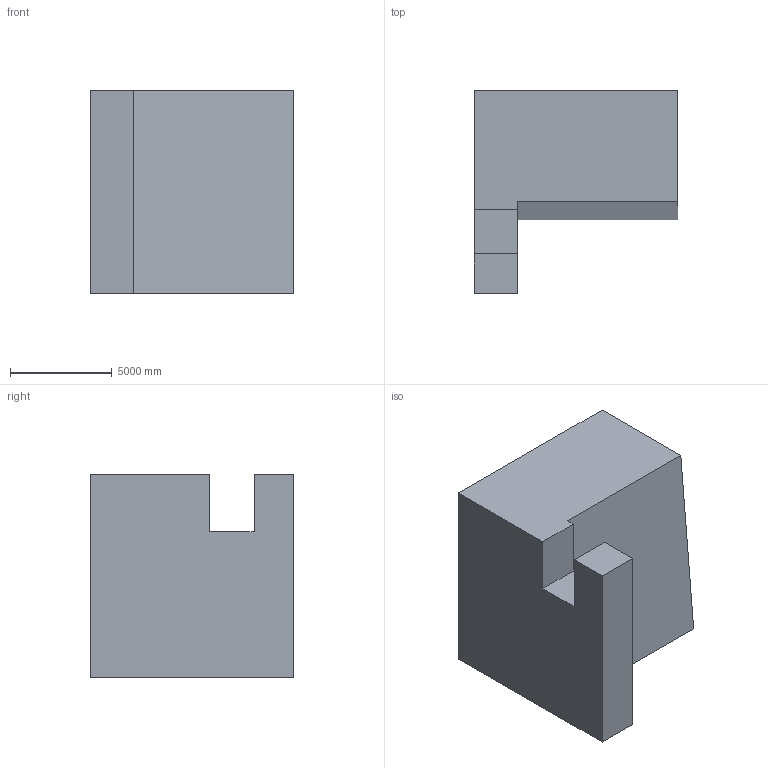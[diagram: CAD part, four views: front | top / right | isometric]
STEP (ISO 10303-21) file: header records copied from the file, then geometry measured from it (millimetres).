
FILE_DESCRIPTION (( 'STEP AP203' ), '1' );
FILE_NAME ('137.STEP', '2022-07-28T13:42:39', ( 'user' ), ( '' ), 'SwSTEP 2.0', 'SolidWorks 2021', '' );
FILE_SCHEMA (( 'CONFIG_CONTROL_DESIGN' ));
Length unit declared in the file: centimetre
Products named in the file (1): 137
Bounding box: 10000 x 10000 x 10000 mm (x, y, z)
Volume: 665339275509.4 mm3; surface area: 535631068.4 mm2
Topology: 1 solids, 1 shells, 12 faces, 30 edges, 20 vertices
Faces by surface type: plane 12
Entity records: 431 total; most frequent: CARTESIAN_POINT 63, ORIENTED_EDGE 60, DIRECTION 56, VECTOR 30, EDGE_CURVE 30, LINE 30, VERTEX_POINT 20, AXIS2_PLACEMENT_3D 13
